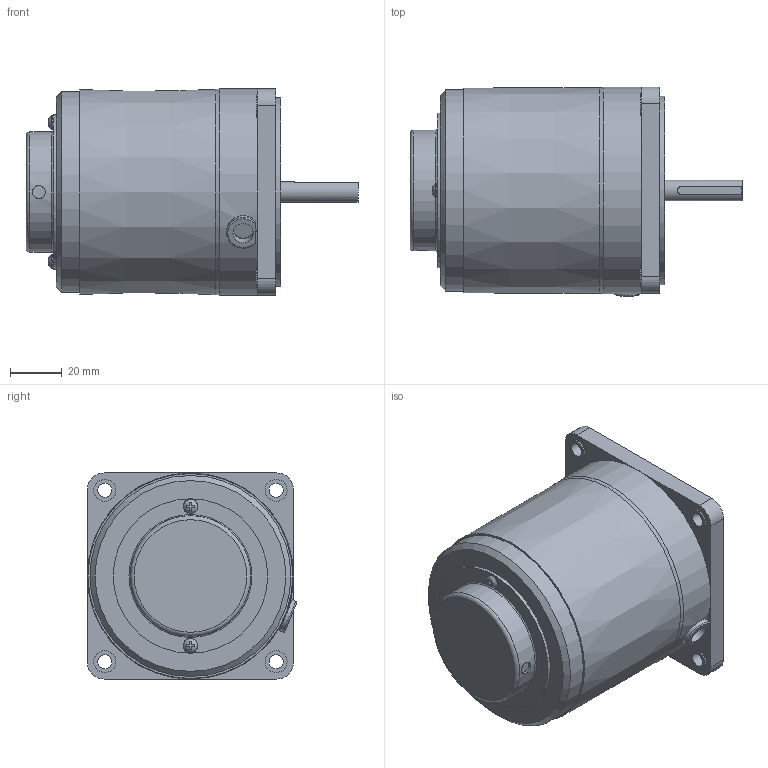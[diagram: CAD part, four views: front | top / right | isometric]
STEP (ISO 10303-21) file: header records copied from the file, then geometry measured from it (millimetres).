
FILE_DESCRIPTION((''),'2;1');
FILE_NAME('D:\STP파일\25W MOTOR\SPEED CONTROL TYPE\S8I15K-S.stp','2013-05-20T16:42:16',('leebh'),(''),'Autodesk Inventor 2011','Autodesk Inventor 2011','');
FILE_SCHEMA(('AUTOMOTIVE_DESIGN { 1 0 10303 214 1 1 1 1 }'));
Length unit declared in the file: millimetre
Products named in the file (1): 부품3
Bounding box: 128.8 x 81.2 x 80 mm (x, y, z)
Volume: 449419.6 mm3; surface area: 40273.1 mm2
Topology: 1 solids, 6 shells, 151 faces, 343 edges, 221 vertices
Faces by surface type: plane 91, cylinder 44, torus 9, bspline 5, cone 2
Full cylindrical faces by diameter (mm): 3 x2, 3.5 x2, 5 x1, 5.5 x4, 5.6 x2, 8 x2, 8.5 x4, 34 x1, 44.7 x1, 46.7 x1, 47.7 x1, 59.9 x1, 73 x1, 78 x1, 80 x1
Entity records: 4641 total; most frequent: CARTESIAN_POINT 1323, DIRECTION 656, ORIENTED_EDGE 606, EDGE_CURVE 303, AXIS2_PLACEMENT_3D 247, EDGE_LOOP 219, VERTEX_POINT 218, VECTOR 162
